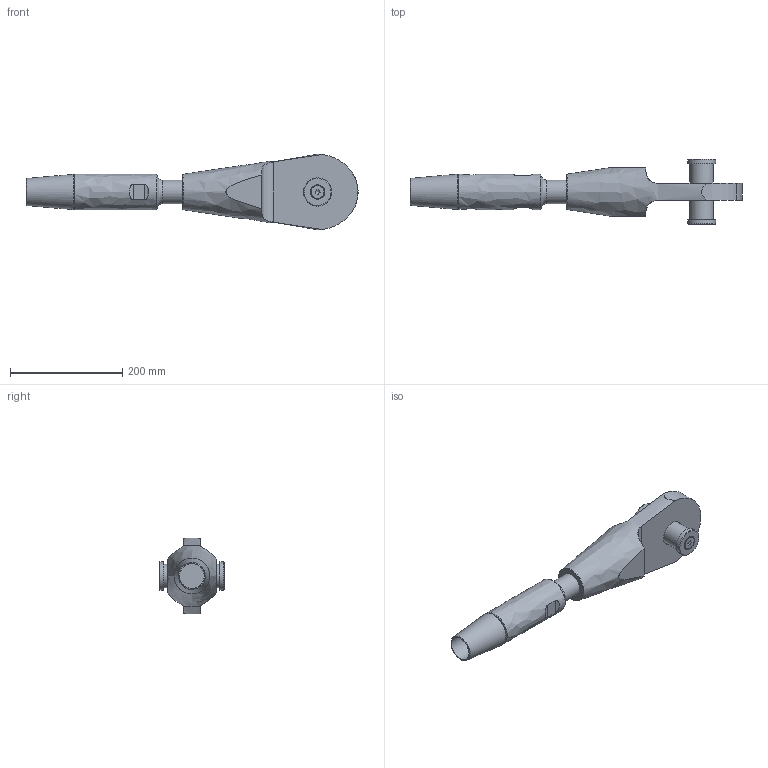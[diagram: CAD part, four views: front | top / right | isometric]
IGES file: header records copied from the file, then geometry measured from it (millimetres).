
Global section: file name: 520-042-OES-ADA; native system: Autodesk Inventor 2020; preprocessor: unknown; author: Administrator; date: 20201007.153832; units: millimetre
Bounding box: 590.96 x 116.44 x 134.74 mm (x, y, z)
Volume: 2256108.7 mm3; surface area: 202474.7 mm2
Topology: 6 solids, 6 shells, 63 faces, 152 edges, 106 vertices
Faces by surface type: bspline 63
